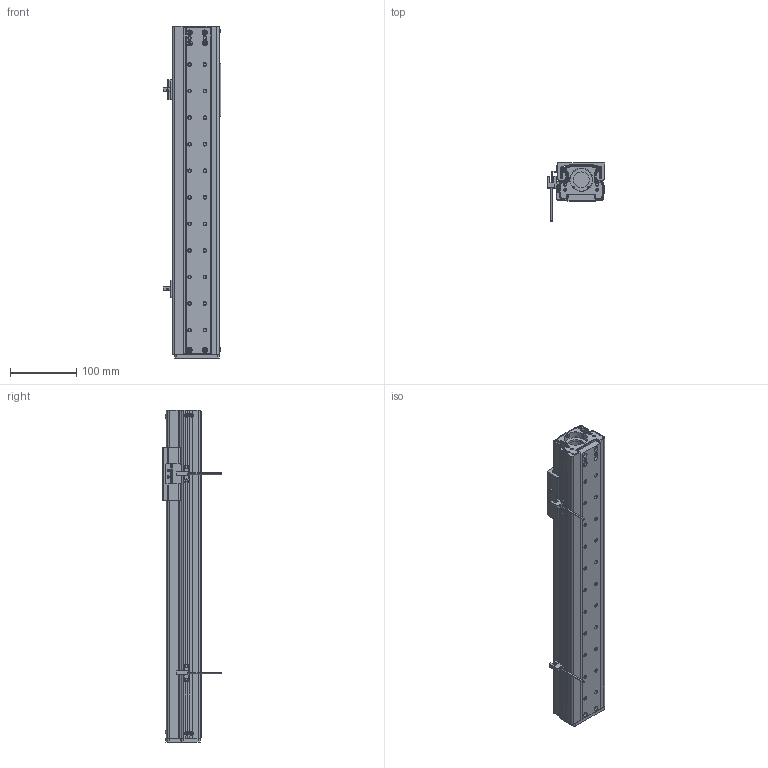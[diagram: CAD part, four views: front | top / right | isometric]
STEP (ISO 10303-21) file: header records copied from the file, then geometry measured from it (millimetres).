
FILE_DESCRIPTION (( 'STEP AP203' ), '1' );
FILE_NAME ('CTHM6-S300.STEP', '2019-12-18T01:45:00', ( '微软用户' ), ( '微软中国' ), 'SwSTEP 2.0', 'SolidWorks 2017', '' );
FILE_SCHEMA (( 'CONFIG_CONTROL_DESIGN' ));
Length unit declared in the file: millimetre
Products named in the file (17): M4-L10囀鞠褒蹟佪; LMW15AA; 侧挡板2(带磁条修改厚度); 固定侧轴承座(自制轴承座); M3-L6半圆头内六角螺丝; 羲壽え; M3-L6囀鞠褒蹟佪; 支持侧轴承座(带磁条); EE-SX672-BR; 遣喳蝶15x12x8; 滅袉蝶; MG60裔啣; CTHM6-S300; 耜結啣(湍羞); LMW15奻窅; DG60傷裔(祥結傷裔); 蟀諉釱(裔啣党蜊)
Assembly tree (29 placements, depth 2):
  CTHM6-S300
    LMW15奻窅
    蟀諉釱(裔啣党蜊)
    LMW15AA
    固定侧轴承座(自制轴承座)
    羲壽え
    支持侧轴承座(带磁条)
    遣喳蝶15x12x8  x2
    MG60裔啣
    耜結啣(湍羞)
    DG60傷裔(祥結傷裔)
    M4-L10囀鞠褒蹟佪  x2
    侧挡板2(带磁条修改厚度)
    M3-L6半圆头内六角螺丝  x8
    M3-L6囀鞠褒蹟佪  x4
    EE-SX672-BR  x2
    滅袉蝶
Bounding box: 86.7 x 87.8 x 500 mm (x, y, z)
Volume: 602760.7 mm3; surface area: 392415.6 mm2
Topology: 33 solids, 33 shells, 1839 faces, 4742 edges, 2936 vertices
Faces by surface type: plane 770, cylinder 657, cone 298, torus 88, bspline 26
Entity records: 50080 total; most frequent: CARTESIAN_POINT 10597, DIRECTION 8042, ORIENTED_EDGE 7700, EDGE_CURVE 3850, AXIS2_PLACEMENT_3D 2982, VERTEX_POINT 2437, VECTOR 2078, LINE 2078
